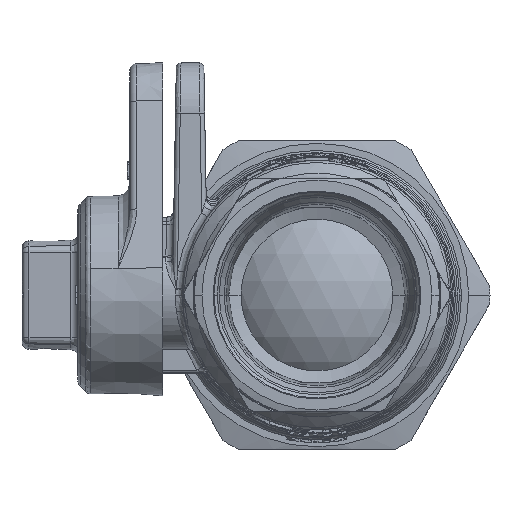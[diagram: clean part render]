
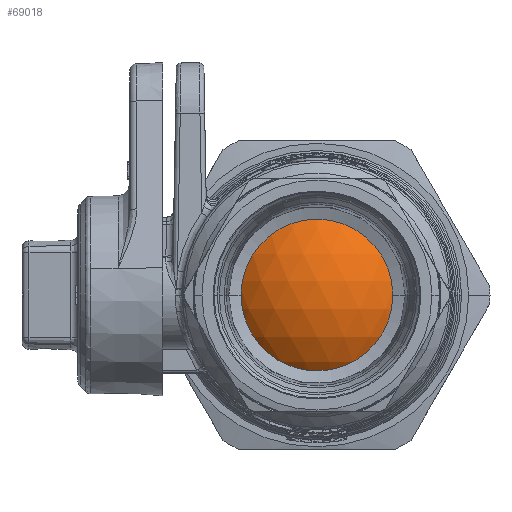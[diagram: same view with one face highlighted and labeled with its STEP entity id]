
A CAD part, left-side view. The second image highlights one B-rep face of the part: STEP entity #69018.
In plain terms, the highlighted spherical face has radius 25.5 mm.
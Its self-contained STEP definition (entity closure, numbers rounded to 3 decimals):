
#68469=CARTESIAN_POINT('',(-13.711,21.5,0.));
#68478=CARTESIAN_POINT('',(13.711,21.5,0.));
#68536=CARTESIAN_POINT('',(0.,-21.,0.));
#68537=DIRECTION('',(0.,-1.,0.));
#68538=DIRECTION('',(-1.,0.,0.));
#68539=AXIS2_PLACEMENT_3D('',#68536,#68537,#68538);
#68541=CARTESIAN_POINT('',(0.,0.,0.));
#68542=DIRECTION('',(0.,0.,-1.));
#68543=DIRECTION('',(0.729,-0.684,0.));
#68544=AXIS2_PLACEMENT_3D('',#68541,#68542,#68543);
#68546=CARTESIAN_POINT('',(0.,0.,0.));
#68547=DIRECTION('',(0.,0.,1.));
#68548=DIRECTION('',(0.729,0.684,0.));
#68549=AXIS2_PLACEMENT_3D('',#68546,#68547,#68548);
#68551=CARTESIAN_POINT('',(6.,23.449,-8.025));
#68552=CARTESIAN_POINT('',(6.73,23.336,
-7.808));
#68553=CARTESIAN_POINT('',(8.064,23.091,
-7.309));
#68554=CARTESIAN_POINT('',(9.717,22.709,
-6.418));
#68555=CARTESIAN_POINT('',(11.025,22.358,
-5.446));
#68556=CARTESIAN_POINT('',(12.056,22.05,
-4.4));
#68557=CARTESIAN_POINT('',(12.809,21.808,
-3.331));
#68558=CARTESIAN_POINT('',(13.329,21.633,
-2.249));
#68559=CARTESIAN_POINT('',(13.643,21.524,
-1.127));
#68560=CARTESIAN_POINT('',(13.711,21.5,-0.377));
#68561=CARTESIAN_POINT('',(13.711,21.5,0.));
#68563=CARTESIAN_POINT('',(0.,0.,0.));
#68564=DIRECTION('',(0.,0.,1.));
#68565=DIRECTION('',(0.235,0.972,0.));
#68566=AXIS2_PLACEMENT_3D('',#68563,#68564,#68565);
#68568=CARTESIAN_POINT('',(-3.,22.067,-12.421));
#68569=CARTESIAN_POINT('',(-2.335,22.118,
-12.491));
#68570=CARTESIAN_POINT('',(-1.004,22.187,
-12.583));
#68571=CARTESIAN_POINT('',(1.005,22.187,
-12.583));
#68572=CARTESIAN_POINT('',(2.336,22.118,
-12.491));
#68573=CARTESIAN_POINT('',(3.,22.067,-12.421));
#68575=CARTESIAN_POINT('',(0.,0.,0.));
#68576=DIRECTION('',(0.,0.,1.));
#68577=DIRECTION('',(-0.118,0.993,0.));
#68578=AXIS2_PLACEMENT_3D('',#68575,#68576,#68577);
#68580=CARTESIAN_POINT('',(-13.711,21.5,0.));
#68581=CARTESIAN_POINT('',(-13.711,21.5,-0.37));
#68582=CARTESIAN_POINT('',(-13.646,21.523,
-1.11));
#68583=CARTESIAN_POINT('',(-13.336,21.631,
-2.231));
#68584=CARTESIAN_POINT('',(-12.818,21.806,
-3.318));
#68585=CARTESIAN_POINT('',(-12.059,22.049,
-4.396));
#68586=CARTESIAN_POINT('',(-11.036,22.355,
-5.437));
#68587=CARTESIAN_POINT('',(-9.722,22.708,
-6.415));
#68588=CARTESIAN_POINT('',(-8.063,23.091,
-7.31));
#68589=CARTESIAN_POINT('',(-6.729,23.337,
-7.808));
#68590=CARTESIAN_POINT('',(-6.,23.449,-8.025));
#68592=CARTESIAN_POINT('',(0.,0.,0.));
#68593=DIRECTION('',(0.,0.,1.));
#68594=DIRECTION('',(-0.538,0.843,0.));
#68595=AXIS2_PLACEMENT_3D('',#68592,#68593,#68594);
#68597=CARTESIAN_POINT('',(0.,0.,0.));
#68598=DIRECTION('',(0.,0.,-1.));
#68599=DIRECTION('',(-0.567,-0.824,0.));
#68600=AXIS2_PLACEMENT_3D('',#68597,#68598,#68599);
#68602=CARTESIAN_POINT('',(18.594,0.,0.));
#68603=DIRECTION('',(-1.,0.,0.));
#68604=DIRECTION('',(0.,1.,0.));
#68605=AXIS2_PLACEMENT_3D('',#68602,#68603,#68604);
#68701=CARTESIAN_POINT('',(-18.594,0.,0.));
#68702=DIRECTION('',(-1.,0.,0.));
#68703=DIRECTION('',(0.,1.,0.));
#68704=AXIS2_PLACEMENT_3D('',#68701,#68702,#68703);
#68740=CARTESIAN_POINT('',(6.,0.,0.));
#68741=DIRECTION('',(1.,0.,0.));
#68742=DIRECTION('',(0.,0.946,-0.324));
#68743=AXIS2_PLACEMENT_3D('',#68740,#68741,#68742);
#68750=CARTESIAN_POINT('',(3.,0.,0.));
#68751=DIRECTION('',(1.,0.,0.));
#68752=DIRECTION('',(0.,0.871,-0.491));
#68753=AXIS2_PLACEMENT_3D('',#68750,#68751,#68752);
#68770=CARTESIAN_POINT('',(-3.,0.,0.));
#68771=DIRECTION('',(1.,0.,0.));
#68772=DIRECTION('',(0.,0.871,-0.491));
#68773=AXIS2_PLACEMENT_3D('',#68770,#68771,#68772);
#68780=CARTESIAN_POINT('',(-6.,0.,0.));
#68781=DIRECTION('',(1.,0.,0.));
#68782=DIRECTION('',(0.,0.946,-0.324));
#68783=AXIS2_PLACEMENT_3D('',#68780,#68781,#68782);
#68790=CARTESIAN_POINT('',(-3.,25.323,0.));
#68792=VERTEX_POINT('',#68790);
#68794=CARTESIAN_POINT('',(3.,25.323,0.));
#68796=VERTEX_POINT('',#68794);
#68798=CARTESIAN_POINT('',(-3.,22.067,-12.421));
#68799=VERTEX_POINT('',#68798);
#68800=VERTEX_POINT('',#68573);
#68801=CARTESIAN_POINT('',(6.,24.784,0.));
#68803=VERTEX_POINT('',#68801);
#68805=VERTEX_POINT('',#68478);
#68806=CARTESIAN_POINT('',(6.,23.449,-8.025));
#68807=VERTEX_POINT('',#68806);
#68808=CARTESIAN_POINT('',(-6.,24.784,0.));
#68810=VERTEX_POINT('',#68808);
#68812=VERTEX_POINT('',#68469);
#68813=CARTESIAN_POINT('',(-6.,23.449,-8.025));
#68814=VERTEX_POINT('',#68813);
#68815=CARTESIAN_POINT('',(18.594,17.451,
0.));
#68816=CARTESIAN_POINT('',(18.594,-17.451,
0.));
#68817=VERTEX_POINT('',#68815);
#68818=VERTEX_POINT('',#68816);
#68835=CARTESIAN_POINT('',(-18.594,-17.451,
0.));
#68836=CARTESIAN_POINT('',(-18.594,17.451,
0.));
#68837=VERTEX_POINT('',#68835);
#68838=VERTEX_POINT('',#68836);
#68851=CARTESIAN_POINT('',(14.465,-21.,0.));
#68852=CARTESIAN_POINT('',(-14.465,-21.,0.));
#68853=VERTEX_POINT('',#68851);
#68854=VERTEX_POINT('',#68852);
#68986=CARTESIAN_POINT('',(0.,0.,0.));
#68987=DIRECTION('',(1.,0.,0.));
#68988=DIRECTION('',(0.,-1.,0.));
#68989=AXIS2_PLACEMENT_3D('',#68986,#68987,#68988);
#68990=SPHERICAL_SURFACE('',#68989,25.5);
#68991=ORIENTED_EDGE('',*,*,#68909,.T.);
#68992=ORIENTED_EDGE('',*,*,#68898,.F.);
#68994=ORIENTED_EDGE('',*,*,#68993,.F.);
#68995=ORIENTED_EDGE('',*,*,#68894,.T.);
#68997=ORIENTED_EDGE('',*,*,#68996,.F.);
#68999=ORIENTED_EDGE('',*,*,#68998,.T.);
#69000=ORIENTED_EDGE('',*,*,#68888,.T.);
#69002=ORIENTED_EDGE('',*,*,#69001,.F.);
#69004=ORIENTED_EDGE('',*,*,#69003,.F.);
#69006=ORIENTED_EDGE('',*,*,#69005,.T.);
#69007=ORIENTED_EDGE('',*,*,#68880,.T.);
#69009=ORIENTED_EDGE('',*,*,#69008,.F.);
#69011=ORIENTED_EDGE('',*,*,#69010,.F.);
#69012=ORIENTED_EDGE('',*,*,#68874,.T.);
#69014=ORIENTED_EDGE('',*,*,#69013,.T.);
#69015=ORIENTED_EDGE('',*,*,#68870,.F.);
#69016=EDGE_LOOP('',(#68991,#68992,#68994,#68995,#68997,#68999,#69000,#69002,
#69004,#69006,#69007,#69009,#69011,#69012,#69014,#69015));
#69017=FACE_OUTER_BOUND('',#69016,.F.);
#69018=ADVANCED_FACE('',(#69017),#68990,.T.);
#68540=CIRCLE('',#68539,14.465);
#68545=CIRCLE('',#68544,25.5);
#68550=CIRCLE('',#68549,25.5);
#68562=B_SPLINE_CURVE_WITH_KNOTS('',3,(#68551,#68552,#68553,#68554,#68555,
#68556,#68557,#68558,#68559,#68560,#68561),.UNSPECIFIED.,.F.,.F.,(4,1,1,1,1,1,1,
1,4),(0.,0.125,0.25,0.375,0.5,0.625,0.75,0.875,1.),
.UNSPECIFIED.);
#68567=CIRCLE('',#68566,25.5);
#68574=B_SPLINE_CURVE_WITH_KNOTS('',3,(#68568,#68569,#68570,#68571,#68572,
#68573),.UNSPECIFIED.,.F.,.F.,(4,1,1,4),(0.,0.333,
0.667,1.),.UNSPECIFIED.);
#68579=CIRCLE('',#68578,25.5);
#68591=B_SPLINE_CURVE_WITH_KNOTS('',3,(#68580,#68581,#68582,#68583,#68584,
#68585,#68586,#68587,#68588,#68589,#68590),.UNSPECIFIED.,.F.,.F.,(4,1,1,1,1,1,1,
1,4),(0.,0.125,0.25,0.375,0.5,0.625,0.75,0.875,1.),
.UNSPECIFIED.);
#68596=CIRCLE('',#68595,25.5);
#68601=CIRCLE('',#68600,25.5);
#68606=CIRCLE('',#68605,17.451);
#68705=CIRCLE('',#68704,17.451);
#68744=CIRCLE('',#68743,24.784);
#68754=CIRCLE('',#68753,25.323);
#68774=CIRCLE('',#68773,25.323);
#68784=CIRCLE('',#68783,24.784);
#68870=EDGE_CURVE('',#68854,#68837,#68601,.T.);
#68874=EDGE_CURVE('',#68812,#68838,#68596,.T.);
#68880=EDGE_CURVE('',#68792,#68810,#68579,.T.);
#68888=EDGE_CURVE('',#68803,#68796,#68567,.T.);
#68894=EDGE_CURVE('',#68817,#68805,#68550,.T.);
#68898=EDGE_CURVE('',#68818,#68853,#68545,.T.);
#68909=EDGE_CURVE('',#68854,#68853,#68540,.T.);
#68993=EDGE_CURVE('',#68817,#68818,#68606,.T.);
#68996=EDGE_CURVE('',#68807,#68805,#68562,.T.);
#68998=EDGE_CURVE('',#68807,#68803,#68744,.T.);
#69001=EDGE_CURVE('',#68800,#68796,#68754,.T.);
#69003=EDGE_CURVE('',#68799,#68800,#68574,.T.);
#69005=EDGE_CURVE('',#68799,#68792,#68774,.T.);
#69008=EDGE_CURVE('',#68814,#68810,#68784,.T.);
#69010=EDGE_CURVE('',#68812,#68814,#68591,.T.);
#69013=EDGE_CURVE('',#68838,#68837,#68705,.T.);
